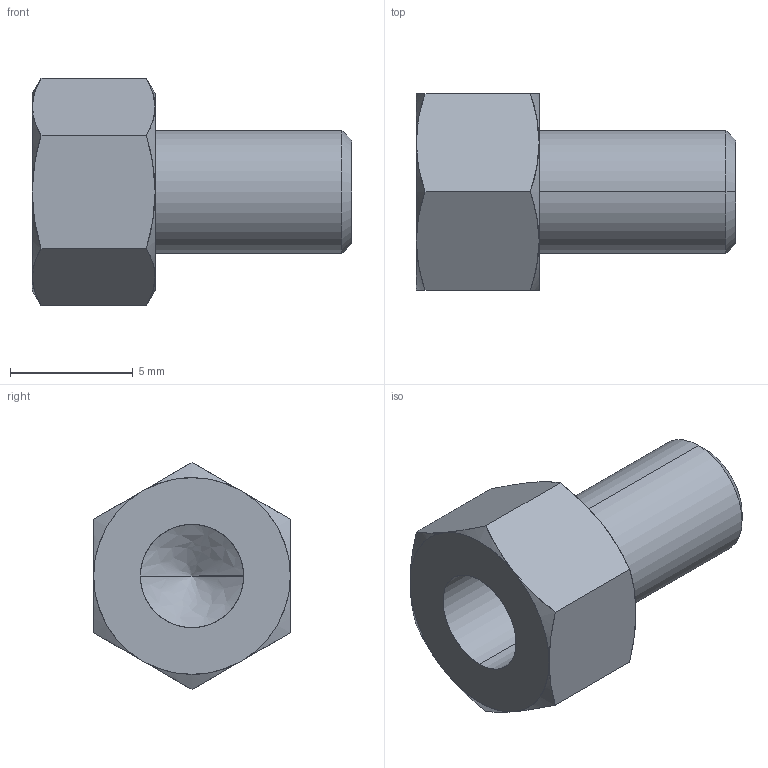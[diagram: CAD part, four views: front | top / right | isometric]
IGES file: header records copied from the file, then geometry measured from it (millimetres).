
Start section: SolidWorks IGES file using analytic representation for surfaces
Global section: file name: C:\Users\render1\Desktop\P0185_IGES\P0185.05-05.igs; native system: SolidWorks 2009; preprocessor: SolidWorks 2009; author: render1; date: 130627.112335; units: millimetre
Bounding box: 13 x 8 x 9.24 mm (x, y, z)
Surface area: 407.7 mm2 (no closed solid volume)
Topology: 0 solids, 0 shells, 29 faces, 324 edges, 322 vertices
Faces by surface type: revolution 20, bspline 9
